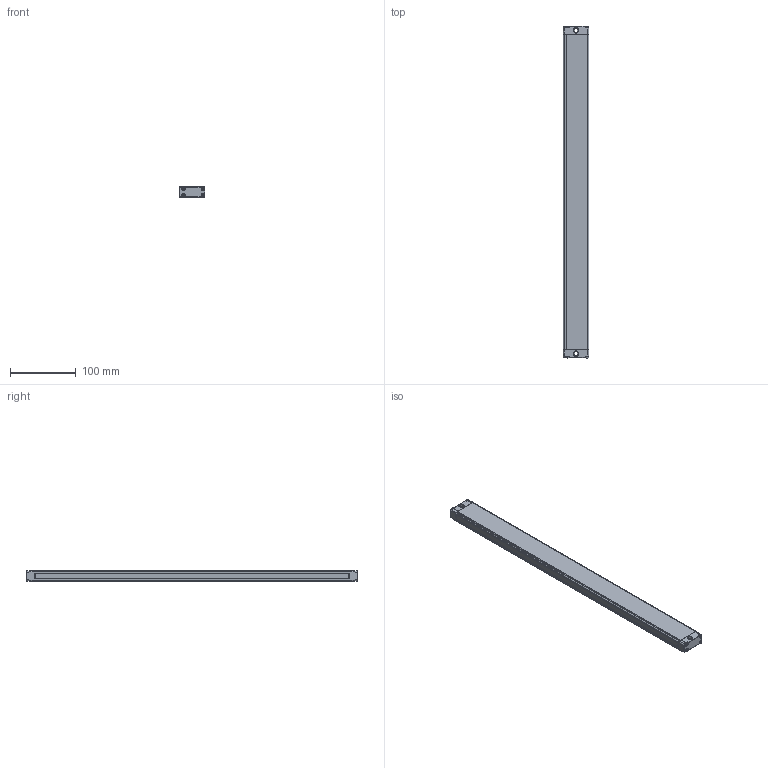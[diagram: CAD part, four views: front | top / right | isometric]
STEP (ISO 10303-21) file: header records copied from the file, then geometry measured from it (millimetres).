
FILE_DESCRIPTION((''),'2;1');
FILE_NAME('EB15--3610_ASM','2021-07-22T10:02:10',('18720616900'),(''),'CREO PARAMETRIC BY PTC INC, 2019010','CREO PARAMETRIC BY PTC INC, 2019010','');
FILE_SCHEMA(('CONFIG_CONTROL_DESIGN'));
Length unit declared in the file: millimetre
Products named in the file (6): EB15-00; EB15-000; EB15-0003; EB15-0004; ST-3-12; EB15--3610_ASM
Assembly tree (12 placements, depth 2):
  EB15--3610_ASM
    EB15-00
    EB15-000
    EB15-0003
    EB15-0004
    ST-3-12  x8
Bounding box: 39.15 x 505 x 15.8 mm (x, y, z)
Volume: 303118.8 mm3; surface area: 76458.9 mm2
Topology: 12 solids, 12 shells, 827 faces, 2188 edges, 1368 vertices
Faces by surface type: plane 242, bspline 188, cone 176, cylinder 165, torus 40, sphere 16
Entity records: 16044 total; most frequent: CARTESIAN_POINT 7660, ORIENTED_EDGE 1804, DIRECTION 1603, EDGE_CURVE 902, AXIS2_PLACEMENT_3D 577, VERTEX_POINT 563, VECTOR 449, LINE 449
